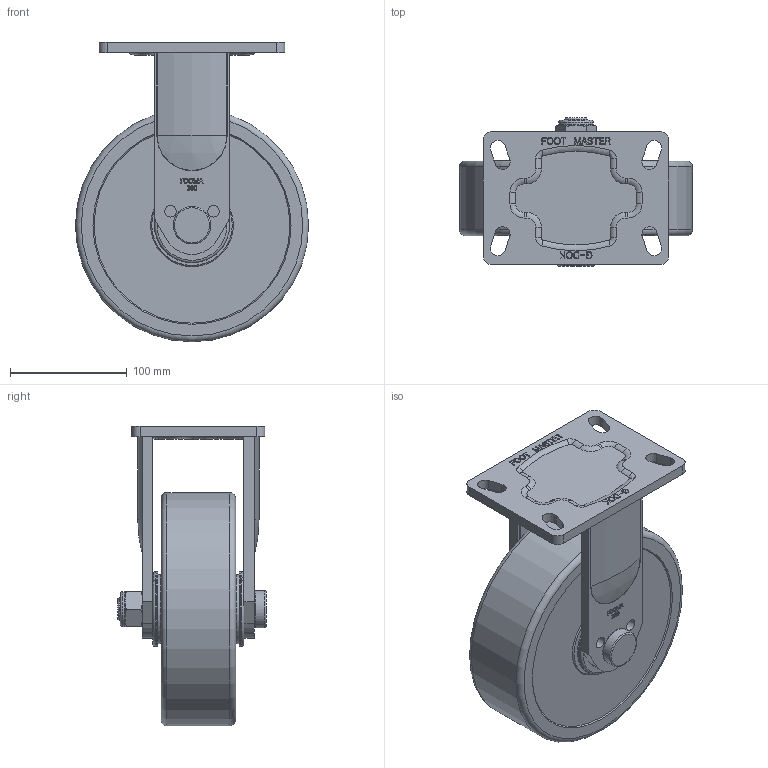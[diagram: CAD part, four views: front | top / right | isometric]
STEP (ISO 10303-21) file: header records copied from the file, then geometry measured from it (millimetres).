
FILE_DESCRIPTION(/* description */ (''),/* implementation_level */ '2;1');
FILE_NAME(/* name */ 'E:\홈피용도면\홈페이지용3d\GF-SERIES\GF-200-ARF-MCD.stp',/* time_stamp */ '2019-07-10T10:26:45+09:00',/* author */ ('장용하'),/* organization */ (''),/* preprocessor_version */ 'ST-DEVELOPER v16.13',/* originating_system */ 'Autodesk Inventor 2018',/* authorisation */ '');
FILE_SCHEMA (('AUTOMOTIVE_DESIGN { 1 0 10303 214 3 1 1 }'));
Length unit declared in the file: millimetre
Products named in the file (1): GF-RF-PLATE
Bounding box: 200 x 127 x 257 mm (x, y, z)
Volume: 2366498.6 mm3; surface area: 199009.8 mm2
Topology: 1 solids, 1 shells, 838 faces, 2256 edges, 1470 vertices
Faces by surface type: bspline 422, plane 279, cylinder 63, torus 43, cone 23, sphere 8
Full cylindrical faces by diameter (mm): 10 x4, 20 x1, 30 x1, 32 x1, 33 x2, 59 x2, 64.519 x2, 200 x1
Entity records: 28647 total; most frequent: CARTESIAN_POINT 10613, ORIENTED_EDGE 4384, DIRECTION 2442, EDGE_CURVE 2192, VERTEX_POINT 1464, LINE 1072, VECTOR 1072, EDGE_LOOP 958
